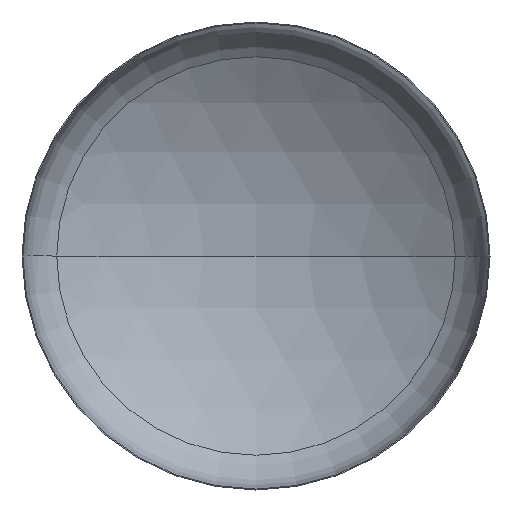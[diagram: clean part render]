
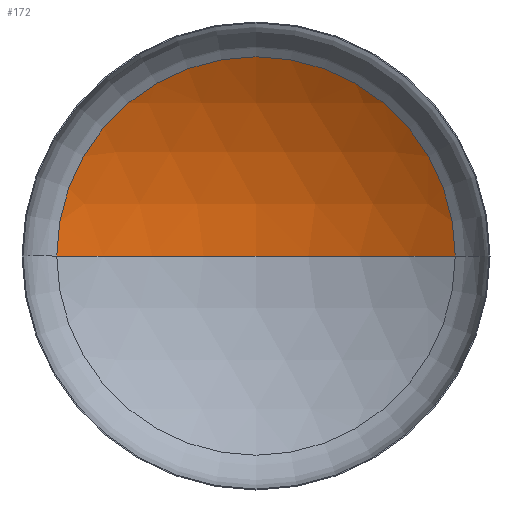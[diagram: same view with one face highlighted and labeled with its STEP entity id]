
A CAD part, front view. The second image highlights one B-rep face of the part: STEP entity #172.
In plain terms, the highlighted spherical face has radius 3600 mm.
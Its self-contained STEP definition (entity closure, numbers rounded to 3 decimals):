
#7 = VERTEX_POINT ( 'NONE', #135 ) ;
#41 = DIRECTION ( 'NONE',  ( 0., 0., 1. ) ) ;
#42 = VERTEX_POINT ( 'NONE', #46 ) ;
#46 = CARTESIAN_POINT ( 'NONE',  ( 0., 1170.547, 0. ) ) ;
#65 = ORIENTED_EDGE ( 'NONE', *, *, #286, .F. ) ;
#72 = EDGE_LOOP ( 'NONE', ( #65, #85, #96 ) ) ;
#85 = ORIENTED_EDGE ( 'NONE', *, *, #301, .T. ) ;
#86 = CARTESIAN_POINT ( 'NONE',  ( 0., -2429.453, 0. ) ) ;
#96 = ORIENTED_EDGE ( 'NONE', *, *, #243, .T. ) ;
#134 = VERTEX_POINT ( 'NONE', #203 ) ;
#135 = CARTESIAN_POINT ( 'NONE',  ( -1915.869, 618.406, 0. ) ) ;
#146 = AXIS2_PLACEMENT_3D ( 'NONE', #171, #269, #381 ) ;
#166 = DIRECTION ( 'NONE',  ( -1., 0., 0. ) ) ;
#169 = CIRCLE ( 'NONE', #146, 1915.869 ) ;
#171 = CARTESIAN_POINT ( 'NONE',  ( 0., 618.406, 0. ) ) ;
#172 = ADVANCED_FACE ( 'NONE', ( #377 ), #335, .F. ) ;
#201 = DIRECTION ( 'NONE',  ( 0., 0., -1. ) ) ;
#203 = CARTESIAN_POINT ( 'NONE',  ( 1915.869, 618.406, 0. ) ) ;
#212 = CARTESIAN_POINT ( 'NONE',  ( 0., -2429.453, 0. ) ) ;
#216 = DIRECTION ( 'NONE',  ( 0., 0., -1. ) ) ;
#223 = CIRCLE ( 'NONE', #310, 3600. ) ;
#243 = EDGE_CURVE ( 'NONE', #134, #7, #169, .T. ) ;
#261 = AXIS2_PLACEMENT_3D ( 'NONE', #86, #41, #265 ) ;
#265 = DIRECTION ( 'NONE',  ( 1., 0., 0. ) ) ;
#269 = DIRECTION ( 'NONE',  ( 0., -1., 0. ) ) ;
#286 = EDGE_CURVE ( 'NONE', #42, #7, #406, .T. ) ;
#301 = EDGE_CURVE ( 'NONE', #42, #134, #223, .T. ) ;
#310 = AXIS2_PLACEMENT_3D ( 'NONE', #359, #216, #382 ) ;
#335 = SPHERICAL_SURFACE ( 'NONE', #403, 3600. ) ;
#359 = CARTESIAN_POINT ( 'NONE',  ( 0., -2429.453, 0. ) ) ;
#377 = FACE_OUTER_BOUND ( 'NONE', #72, .T. ) ;
#381 = DIRECTION ( 'NONE',  ( 1., 0., 0. ) ) ;
#382 = DIRECTION ( 'NONE',  ( -1., 0., 0. ) ) ;
#403 = AXIS2_PLACEMENT_3D ( 'NONE', #212, #201, #166 ) ;
#406 = CIRCLE ( 'NONE', #261, 3600. ) ;
